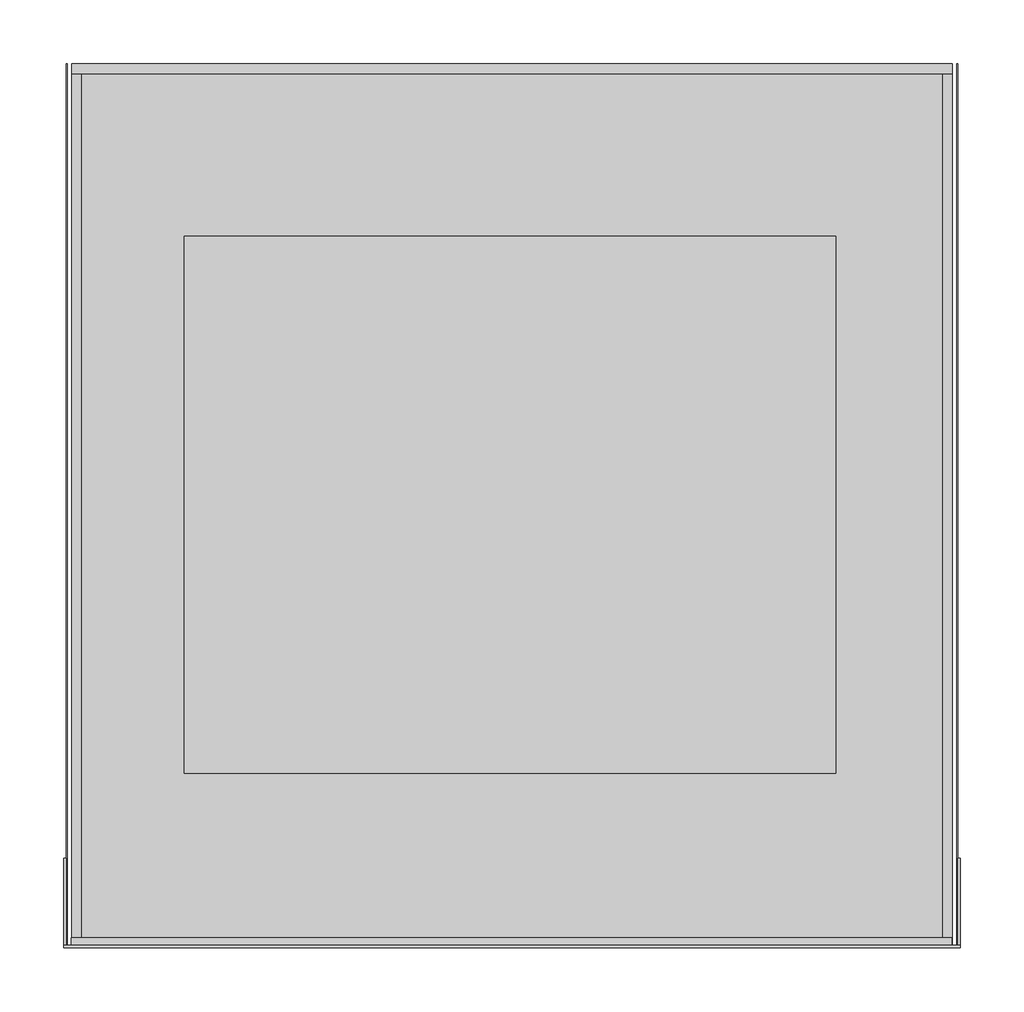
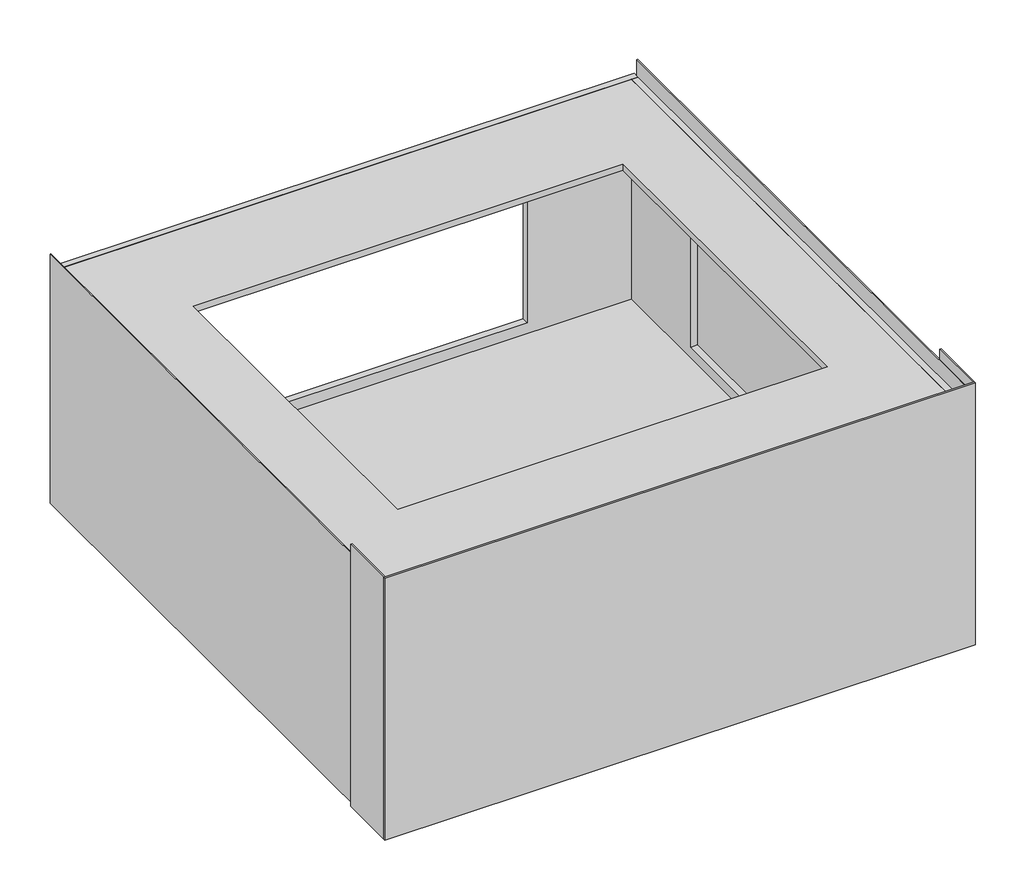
# Not in any storey: 1 proxy.
"""IFC4 building model written with IfcOpenShell, lengths in millimetres."""

from ifc_helpers import new_model, si_unit, origin, place, context, project, spatial, transform, mapped, element, save
from components import specialty_equipment_7cd9c3d5

model = new_model("IFC4")

# Units and contexts
model_context = context("Model", 3, world=origin())
ifc_project = project(units=[si_unit("LENGTHUNIT", "METRE", prefix="MILLI")], contexts=[model_context])

# Site, building
site = spatial("IfcSite", under=ifc_project)
building = spatial("IfcBuilding", under=site)

# Proxy
placement = place(None, origin())
specialty_equipment_shape = specialty_equipment_7cd9c3d5(model_context)
element("IfcBuildingElementProxy", 1, Name="11792190_EU_APCL057_SST : 59590057_EU_11792190_APCL057_SST", ObjectType="11792190_EU_APCL057_SST : 59590057_EU_11792190_APCL057_SST", at=placement, inside=building, context=model_context, shape_type="MappedRepresentation", body=[
    mapped(specialty_equipment_shape, transform((0.0, 0.0, 0.0), x_axis=(1.0, 0.0, 0.0), y_axis=(0.0, 1.0, 0.0), z_axis=(0.0, 0.0, 1.0))),
])

save(model, "model.ifc")
